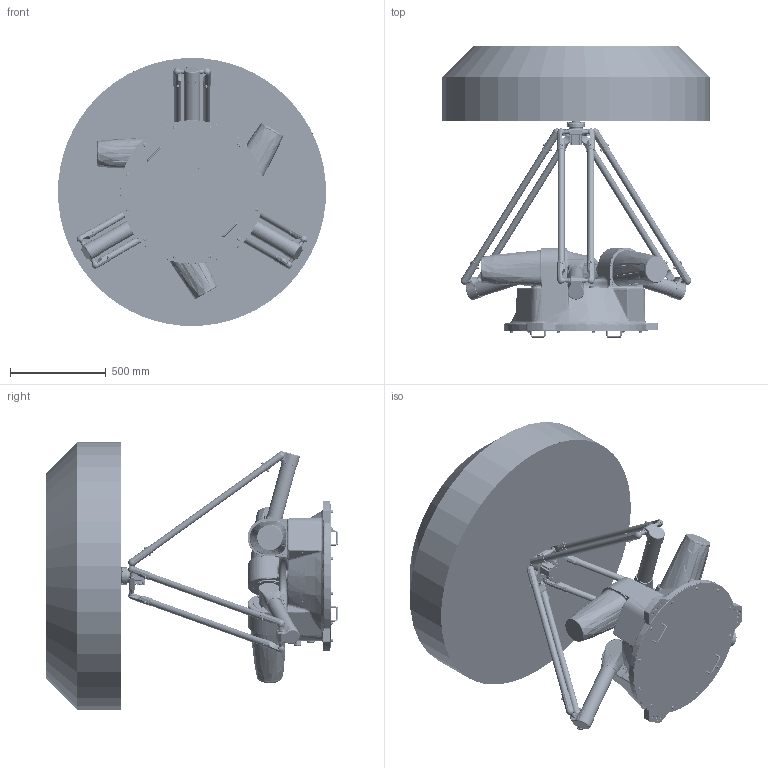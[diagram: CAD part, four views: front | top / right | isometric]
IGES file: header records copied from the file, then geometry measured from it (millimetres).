
Start section: SolidWorks IGES file using analytic representation for surfaces
Global section: file name: D:\20250625 设计文件\20250819 AP15X-1400-1544 模型\20250820 外发模型模拟\20250820 to 嘉星（AP15X-1400）\AP15X-1400-1544-T0-V3.0.0.IGS; native system: SolidWorks 2017; preprocessor: SolidWorks 2017; author: 1153; date: 250821.115004; units: millimetre
Bounding box: 1399.92 x 1522.5 x 1399.92 mm (x, y, z)
Surface area: 9523694.3 mm2 (no closed solid volume)
Topology: 0 solids, 0 shells, 10618 faces, 161413 edges, 160913 vertices
Faces by surface type: bspline 5459, revolution 5159
